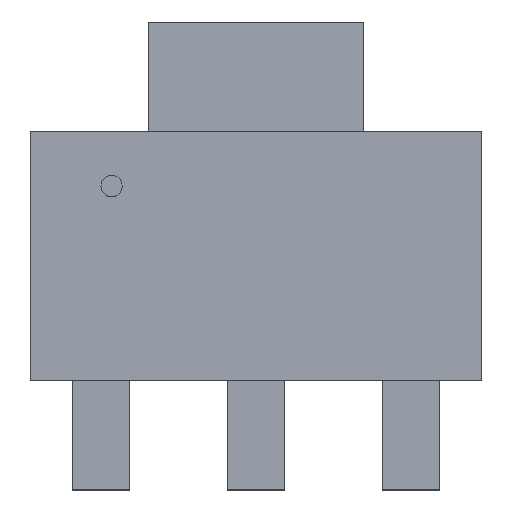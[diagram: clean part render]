
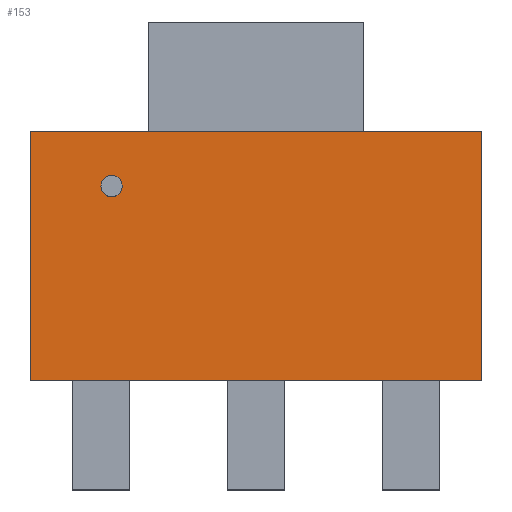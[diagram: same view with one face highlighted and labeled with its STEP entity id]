
A CAD part, top view. The second image highlights one B-rep face of the part: STEP entity #153.
In plain terms, the highlighted planar face has unit normal (0, 0, 1).
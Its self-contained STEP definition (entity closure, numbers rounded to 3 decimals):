
#24 = VERTEX_POINT('',#25);
#25 = CARTESIAN_POINT('',(-3.35,-1.85,1.8));
#31 = EDGE_CURVE('',#24,#32,#34,.T.);
#32 = VERTEX_POINT('',#33);
#33 = CARTESIAN_POINT('',(3.35,-1.85,1.8));
#34 = LINE('',#35,#36);
#35 = CARTESIAN_POINT('',(-3.35,-1.85,1.8));
#36 = VECTOR('',#37,1.);
#37 = DIRECTION('',(1.,0.,0.));
#62 = EDGE_CURVE('',#32,#63,#65,.T.);
#63 = VERTEX_POINT('',#64);
#64 = CARTESIAN_POINT('',(3.35,1.85,1.8));
#65 = LINE('',#66,#67);
#66 = CARTESIAN_POINT('',(3.35,-1.85,1.8));
#67 = VECTOR('',#68,1.);
#68 = DIRECTION('',(0.,1.,0.));
#93 = EDGE_CURVE('',#63,#94,#96,.T.);
#94 = VERTEX_POINT('',#95);
#95 = CARTESIAN_POINT('',(-3.35,1.85,1.8));
#96 = LINE('',#97,#98);
#97 = CARTESIAN_POINT('',(3.35,1.85,1.8));
#98 = VECTOR('',#99,1.);
#99 = DIRECTION('',(-1.,0.,0.));
#124 = EDGE_CURVE('',#94,#24,#125,.T.);
#125 = LINE('',#126,#127);
#126 = CARTESIAN_POINT('',(-3.35,1.85,1.8));
#127 = VECTOR('',#128,1.);
#128 = DIRECTION('',(0.,-1.,0.));
#153 = ADVANCED_FACE('',(#154),#160,.T.);
#154 = FACE_BOUND('',#155,.T.);
#155 = EDGE_LOOP('',(#156,#157,#158,#159));
#156 = ORIENTED_EDGE('',*,*,#31,.T.);
#157 = ORIENTED_EDGE('',*,*,#62,.T.);
#158 = ORIENTED_EDGE('',*,*,#93,.T.);
#159 = ORIENTED_EDGE('',*,*,#124,.T.);
#160 = PLANE('',#161);
#161 = AXIS2_PLACEMENT_3D('',#162,#163,#164);
#162 = CARTESIAN_POINT('',(0.,0.,1.8)
  );
#163 = DIRECTION('',(0.,0.,1.));
#164 = DIRECTION('',(1.,0.,-0.));
